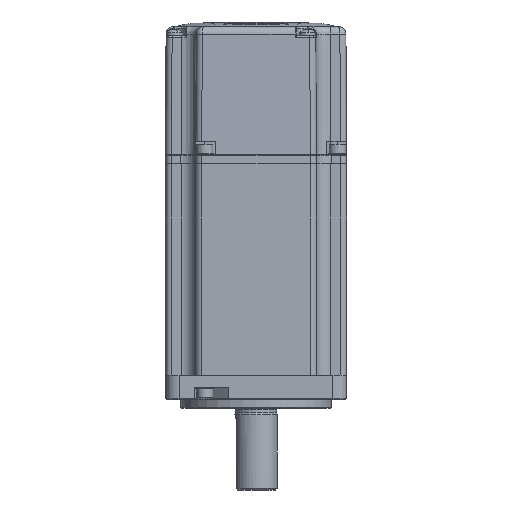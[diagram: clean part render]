
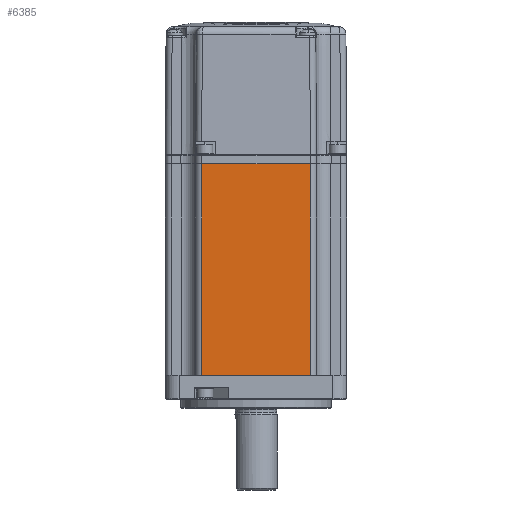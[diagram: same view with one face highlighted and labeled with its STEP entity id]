
A CAD part, front view. The second image highlights one B-rep face of the part: STEP entity #6385.
In plain terms, the highlighted planar face has unit normal (0, -1, 0).
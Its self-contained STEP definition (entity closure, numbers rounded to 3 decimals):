
#1743 = EDGE_CURVE ( 'NONE', #18595, #23209, #43666, .T. ) ;
#6007 = ORIENTED_EDGE ( 'NONE', *, *, #1743, .F. ) ;
#6385 = ADVANCED_FACE ( 'NONE', ( #11506 ), #36589, .F. ) ;
#9457 = CARTESIAN_POINT ( 'NONE',  ( 26.358, -48.451, -11.538 ) ) ;
#10209 = EDGE_CURVE ( 'NONE', #39462, #15637, #15336, .T. ) ;
#11506 = FACE_OUTER_BOUND ( 'NONE', #33654, .T. ) ;
#11922 = ORIENTED_EDGE ( 'NONE', *, *, #10209, .F. ) ;
#12361 = CARTESIAN_POINT ( 'NONE',  ( -23.642, -48.451, 59.712 ) ) ;
#12654 = DIRECTION ( 'NONE',  ( -1., 0., 0. ) ) ;
#14840 = CARTESIAN_POINT ( 'NONE',  ( 14.358, -48.451, -11.538 ) ) ;
#15336 = LINE ( 'NONE', #9457, #25230 ) ;
#15637 = VERTEX_POINT ( 'NONE', #42510 ) ;
#18595 = VERTEX_POINT ( 'NONE', #45184 ) ;
#19070 = EDGE_CURVE ( 'NONE', #18595, #15637, #40653, .T. ) ;
#23209 = VERTEX_POINT ( 'NONE', #24542 ) ;
#24542 = CARTESIAN_POINT ( 'NONE',  ( 14.358, -48.451, 58.462 ) ) ;
#25230 = VECTOR ( 'NONE', #12654, 1000. ) ;
#25332 = CARTESIAN_POINT ( 'NONE',  ( -21.642, -48.451, 59.712 ) ) ;
#25391 = DIRECTION ( 'NONE',  ( 1., 0., 0. ) ) ;
#28884 = VECTOR ( 'NONE', #32982, 1000. ) ;
#29904 = CARTESIAN_POINT ( 'NONE',  ( 14.358, -48.451, 59.712 ) ) ;
#30190 = VECTOR ( 'NONE', #32655, 1000. ) ;
#31542 = VECTOR ( 'NONE', #25391, 1000. ) ;
#32655 = DIRECTION ( 'NONE',  ( 0., 0., -1. ) ) ;
#32982 = DIRECTION ( 'NONE',  ( 0., 0., 1. ) ) ;
#33170 = AXIS2_PLACEMENT_3D ( 'NONE', #12361, #43199, #41185 ) ;
#33654 = EDGE_LOOP ( 'NONE', ( #11922, #44484, #6007, #43716 ) ) ;
#35468 = CARTESIAN_POINT ( 'NONE',  ( -33.642, -48.451, 58.462 ) ) ;
#36589 = PLANE ( 'NONE',  #33170 ) ;
#38025 = EDGE_CURVE ( 'NONE', #39462, #23209, #40444, .T. ) ;
#39462 = VERTEX_POINT ( 'NONE', #14840 ) ;
#40444 = LINE ( 'NONE', #29904, #28884 ) ;
#40653 = LINE ( 'NONE', #25332, #30190 ) ;
#41185 = DIRECTION ( 'NONE',  ( -1., 0., 0. ) ) ;
#42510 = CARTESIAN_POINT ( 'NONE',  ( -21.642, -48.451, -11.538 ) ) ;
#43199 = DIRECTION ( 'NONE',  ( 0., 1., 0. ) ) ;
#43666 = LINE ( 'NONE', #35468, #31542 ) ;
#43716 = ORIENTED_EDGE ( 'NONE', *, *, #19070, .T. ) ;
#44484 = ORIENTED_EDGE ( 'NONE', *, *, #38025, .T. ) ;
#45184 = CARTESIAN_POINT ( 'NONE',  ( -21.642, -48.451, 58.462 ) ) ;
